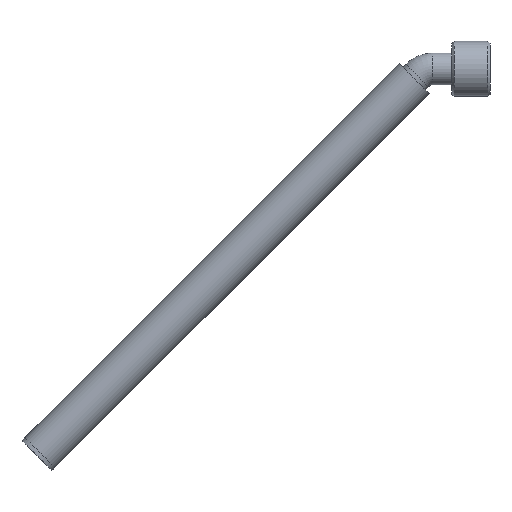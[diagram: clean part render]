
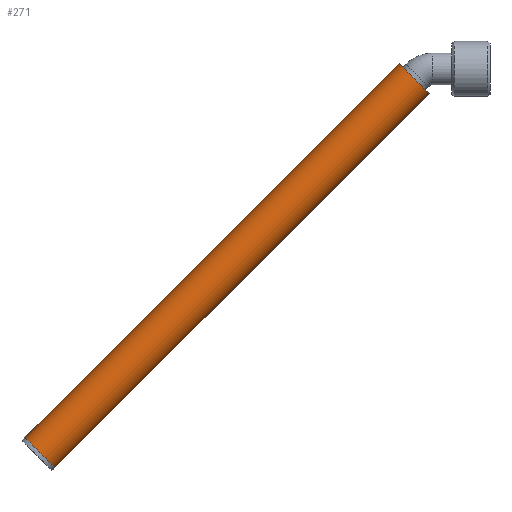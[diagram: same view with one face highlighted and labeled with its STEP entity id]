
A CAD part, top view. The second image highlights one B-rep face of the part: STEP entity #271.
In plain terms, the highlighted cylindrical face has radius 10 mm (diameter 20 mm), a full revolution.
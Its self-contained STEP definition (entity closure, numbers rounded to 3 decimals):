
#271 = ADVANCED_FACE( '', ( #375, #376 ), #377, .T. );
#375 = FACE_OUTER_BOUND( '', #508, .T. );
#376 = FACE_OUTER_BOUND( '', #509, .T. );
#377 = CYLINDRICAL_SURFACE( '', #510, 10. );
#508 = EDGE_LOOP( '', ( #696 ) );
#509 = EDGE_LOOP( '', ( #697 ) );
#510 = AXIS2_PLACEMENT_3D( '', #698, #699, #700 );
#696 = ORIENTED_EDGE( '', *, *, #804, .T. );
#697 = ORIENTED_EDGE( '', *, *, #806, .F. );
#698 = CARTESIAN_POINT( '', ( 250., 0., 0. ) );
#699 = DIRECTION( '', ( -1., 0., 0. ) );
#700 = DIRECTION( '', ( 0., 0., -1. ) );
#804 = EDGE_CURVE( '', #873, #873, #874, .T. );
#806 = EDGE_CURVE( '', #877, #877, #878, .T. );
#873 = VERTEX_POINT( '', #959 );
#874 = CIRCLE( '', #960, 10. );
#877 = VERTEX_POINT( '', #963 );
#878 = CIRCLE( '', #964, 10. );
#959 = CARTESIAN_POINT( '', ( 0., 0., -10. ) );
#960 = AXIS2_PLACEMENT_3D( '', #1071, #1072, #1073 );
#963 = CARTESIAN_POINT( '', ( 250., 0., -10. ) );
#964 = AXIS2_PLACEMENT_3D( '', #1077, #1078, #1079 );
#1071 = CARTESIAN_POINT( '', ( 0., 0., 0. ) );
#1072 = DIRECTION( '', ( 1., 0., 0. ) );
#1073 = DIRECTION( '', ( 0., 0., -1. ) );
#1077 = CARTESIAN_POINT( '', ( 250., 0., 0. ) );
#1078 = DIRECTION( '', ( 1., 0., 0. ) );
#1079 = DIRECTION( '', ( 0., 0., -1. ) );
